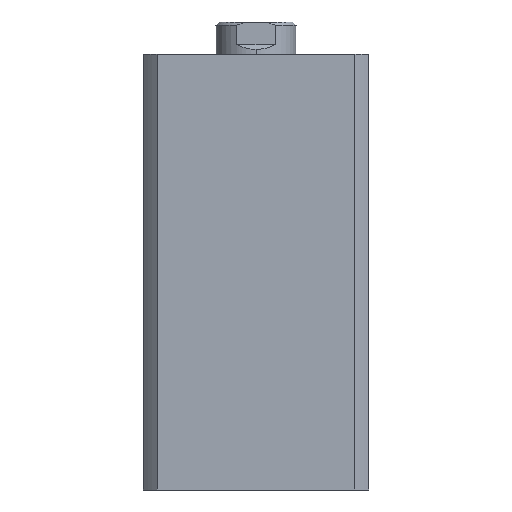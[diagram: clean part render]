
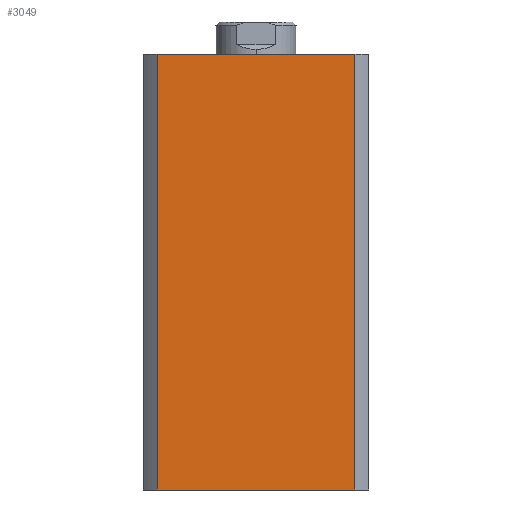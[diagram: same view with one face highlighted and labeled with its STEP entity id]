
A CAD part, left-side view. The second image highlights one B-rep face of the part: STEP entity #3049.
In plain terms, the highlighted planar face has unit normal (-1, 0, 0).
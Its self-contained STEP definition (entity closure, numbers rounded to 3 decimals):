
#257 = EDGE_CURVE ( 'NONE', #4106, #2490, #4854, .T. ) ;
#258 = EDGE_CURVE ( 'NONE', #4163, #2490, #4859, .T. ) ;
#259 = EDGE_CURVE ( 'NONE', #4060, #4163, #4858, .T. ) ;
#292 = EDGE_CURVE ( 'NONE', #4060, #4106, #4904, .T. ) ;
#747 = CARTESIAN_POINT ( 'NONE',  ( -35., 0., 135. ) ) ;
#752 = PLANE ( 'NONE',  #1219 ) ;
#755 = DIRECTION ( 'NONE',  ( 1., 0., 0. ) ) ;
#756 = DIRECTION ( 'NONE',  ( 0., 1., 0. ) ) ;
#1219 = AXIS2_PLACEMENT_3D ( 'NONE', #747, #755, #756 ) ;
#1387 = ORIENTED_EDGE ( 'NONE', *, *, #292, .F. ) ;
#1543 = FACE_OUTER_BOUND ( 'NONE', #5090, .T. ) ;
#1985 = CARTESIAN_POINT ( 'NONE',  ( -35., -30.615, 0. ) ) ;
#2490 = VERTEX_POINT ( 'NONE', #1985 ) ;
#2650 = DIRECTION ( 'NONE',  ( 0., 0., -1. ) ) ;
#2653 = CARTESIAN_POINT ( 'NONE',  ( -35., 30.615, 135. ) ) ;
#2654 = CARTESIAN_POINT ( 'NONE',  ( -35., -30.615, 135. ) ) ;
#2658 = CARTESIAN_POINT ( 'NONE',  ( -35., 0., 0. ) ) ;
#2660 = DIRECTION ( 'NONE',  ( 0., -1., 0. ) ) ;
#2661 = DIRECTION ( 'NONE',  ( 0., 0., -1. ) ) ;
#2808 = DIRECTION ( 'NONE',  ( 0., -1., 0. ) ) ;
#2809 = CARTESIAN_POINT ( 'NONE',  ( -35., 0., 135. ) ) ;
#3049 = ADVANCED_FACE ( 'NONE', ( #1543 ), #752, .F. ) ;
#3225 = CARTESIAN_POINT ( 'NONE',  ( -35., 30.615, 135. ) ) ;
#3242 = CARTESIAN_POINT ( 'NONE',  ( -35., -30.615, 135. ) ) ;
#3256 = CARTESIAN_POINT ( 'NONE',  ( -35., 30.615, 0. ) ) ;
#3601 = ORIENTED_EDGE ( 'NONE', *, *, #259, .T. ) ;
#3602 = ORIENTED_EDGE ( 'NONE', *, *, #257, .F. ) ;
#3699 = ORIENTED_EDGE ( 'NONE', *, *, #258, .T. ) ;
#4060 = VERTEX_POINT ( 'NONE', #3225 ) ;
#4106 = VERTEX_POINT ( 'NONE', #3242 ) ;
#4163 = VERTEX_POINT ( 'NONE', #3256 ) ;
#4854 = LINE ( 'NONE', #2654, #4860 ) ;
#4858 = LINE ( 'NONE', #2653, #4864 ) ;
#4859 = LINE ( 'NONE', #2658, #4862 ) ;
#4860 = VECTOR ( 'NONE', #2650, 1000. ) ;
#4862 = VECTOR ( 'NONE', #2660, 1000. ) ;
#4864 = VECTOR ( 'NONE', #2661, 1000. ) ;
#4904 = LINE ( 'NONE', #2809, #4906 ) ;
#4906 = VECTOR ( 'NONE', #2808, 1000. ) ;
#5090 = EDGE_LOOP ( 'NONE', ( #3699, #3602, #1387, #3601 ) ) ;
